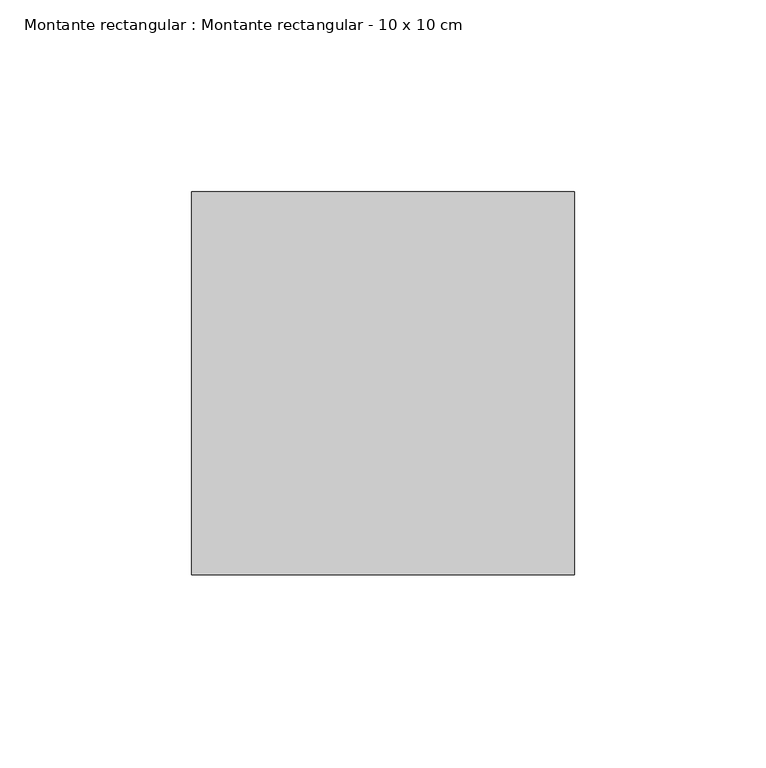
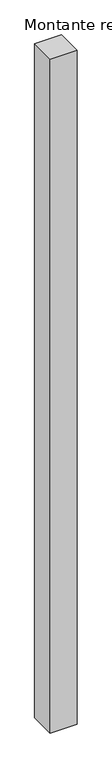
"""IFC4 building model written with IfcOpenShell, lengths in millimetres: member geometry, Montante rectangular : Montante rectangular - 10 x 10 cm."""

from ifc_helpers import new_model, si_unit, frame, origin, place, context, project, spatial, polyline, outline, extrude, source, transform, mapped, element, save


def montante_rectangular_montante_rectangular_10_x_10_cm_b1f4fbf5(model_context):
    return source(origin(), model_context, "Body", "SweptSolid", [
        extrude(outline(polyline([(-100.0, -50.0), (-100.0, 50.0), (0.0, 50.0), (0.0, -50.0), (-100.0, -50.0)])), frame((0.0, 0.0, -2660.0), z_axis=(0.0, 0.0, 1.0), x_axis=(1.0, 0.0, 0.0)), (0.0, 0.0, 1.0), 2660.0),
    ])


if __name__ == "__main__":
    model = new_model("IFC4")
    model_context = context("Model", 3, world=origin())
    ifc_project = project(units=[si_unit("LENGTHUNIT", "METRE", prefix="MILLI")], contexts=[model_context])
    site = spatial("IfcSite", under=ifc_project)
    building = spatial("IfcBuilding", under=site)
    placement = place(None, origin())
    montante_rectangular_montante_rectangular_10_x_10_cm_shape = montante_rectangular_montante_rectangular_10_x_10_cm_b1f4fbf5(model_context)
    element("IfcMember", 1, ObjectType="Montante rectangular : Montante rectangular - 10 x 10 cm", at=placement, inside=building, context=model_context, shape_type="MappedRepresentation", body=[
        mapped(montante_rectangular_montante_rectangular_10_x_10_cm_shape, transform((0.0, 0.0, 0.0), x_axis=(1.0, 0.0, 0.0), y_axis=(0.0, 1.0, 0.0), z_axis=(0.0, 0.0, 1.0))),
    ])
    save(model, "model.ifc")
